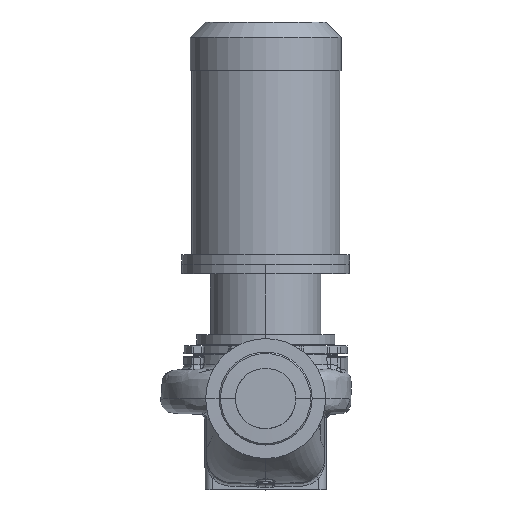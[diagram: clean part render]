
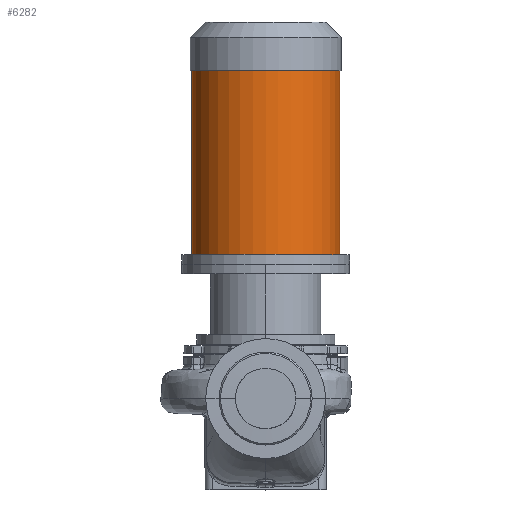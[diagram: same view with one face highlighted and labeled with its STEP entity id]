
A CAD part, top view. The second image highlights one B-rep face of the part: STEP entity #6282.
In plain terms, the highlighted cylindrical face has radius 154.5 mm (diameter 309 mm), a partial arc.
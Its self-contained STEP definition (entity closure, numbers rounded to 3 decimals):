
#3471 = CARTESIAN_POINT ( 'NONE',  ( 154.5, 684.8, 0. ) ) ;
#4532 = VECTOR ( 'NONE', #31950, 1000. ) ;
#6282 = ADVANCED_FACE ( 'NONE', ( #43466 ), #40524, .T. ) ;
#11267 = ORIENTED_EDGE ( 'NONE', *, *, #45410, .F. ) ;
#13212 = DIRECTION ( 'NONE',  ( 0., -1., 0. ) ) ;
#13417 = CIRCLE ( 'NONE', #18670, 154.5 ) ;
#13650 = DIRECTION ( 'NONE',  ( -1., 0., 0. ) ) ;
#14646 = DIRECTION ( 'NONE',  ( -1., 0., 0. ) ) ;
#15527 = EDGE_CURVE ( 'NONE', #19081, #44284, #37301, .T. ) ;
#18670 = AXIS2_PLACEMENT_3D ( 'NONE', #22967, #13212, #14646 ) ;
#19081 = VERTEX_POINT ( 'NONE', #3471 ) ;
#20070 = EDGE_CURVE ( 'NONE', #44284, #34381, #38221, .T. ) ;
#22967 = CARTESIAN_POINT ( 'NONE',  ( 0., 300.8, 0. ) ) ;
#22973 = ORIENTED_EDGE ( 'NONE', *, *, #20070, .T. ) ;
#24994 = DIRECTION ( 'NONE',  ( -1., 0., 0. ) ) ;
#25264 = CARTESIAN_POINT ( 'NONE',  ( 154.5, 300.8, 0. ) ) ;
#26167 = ORIENTED_EDGE ( 'NONE', *, *, #46880, .F. ) ;
#28805 = CARTESIAN_POINT ( 'NONE',  ( -154.5, 300.8, 0. ) ) ;
#31950 = DIRECTION ( 'NONE',  ( 0., -1., 0. ) ) ;
#34381 = VERTEX_POINT ( 'NONE', #28805 ) ;
#36823 = AXIS2_PLACEMENT_3D ( 'NONE', #37095, #41146, #13650 ) ;
#37048 = CARTESIAN_POINT ( 'NONE',  ( 154.5, 280.8, 0. ) ) ;
#37095 = CARTESIAN_POINT ( 'NONE',  ( 0., 684.8, 0. ) ) ;
#37301 = CIRCLE ( 'NONE', #36823, 154.5 ) ;
#37668 = CARTESIAN_POINT ( 'NONE',  ( -154.5, 280.8, 0. ) ) ;
#38145 = ORIENTED_EDGE ( 'NONE', *, *, #15527, .T. ) ;
#38221 = LINE ( 'NONE', #37668, #49155 ) ;
#40524 = CYLINDRICAL_SURFACE ( 'NONE', #49847, 154.5 ) ;
#41146 = DIRECTION ( 'NONE',  ( 0., -1., 0. ) ) ;
#41438 = VERTEX_POINT ( 'NONE', #25264 ) ;
#42153 = DIRECTION ( 'NONE',  ( 0., -1., 0. ) ) ;
#43354 = DIRECTION ( 'NONE',  ( 0., -1., 0. ) ) ;
#43466 = FACE_OUTER_BOUND ( 'NONE', #48532, .T. ) ;
#44284 = VERTEX_POINT ( 'NONE', #44448 ) ;
#44448 = CARTESIAN_POINT ( 'NONE',  ( -154.5, 684.8, 0. ) ) ;
#45410 = EDGE_CURVE ( 'NONE', #41438, #34381, #13417, .T. ) ;
#46880 = EDGE_CURVE ( 'NONE', #19081, #41438, #54843, .T. ) ;
#48532 = EDGE_LOOP ( 'NONE', ( #26167, #38145, #22973, #11267 ) ) ;
#49155 = VECTOR ( 'NONE', #42153, 1000. ) ;
#49847 = AXIS2_PLACEMENT_3D ( 'NONE', #52553, #43354, #24994 ) ;
#52553 = CARTESIAN_POINT ( 'NONE',  ( 0., 280.8, 0. ) ) ;
#54843 = LINE ( 'NONE', #37048, #4532 ) ;
